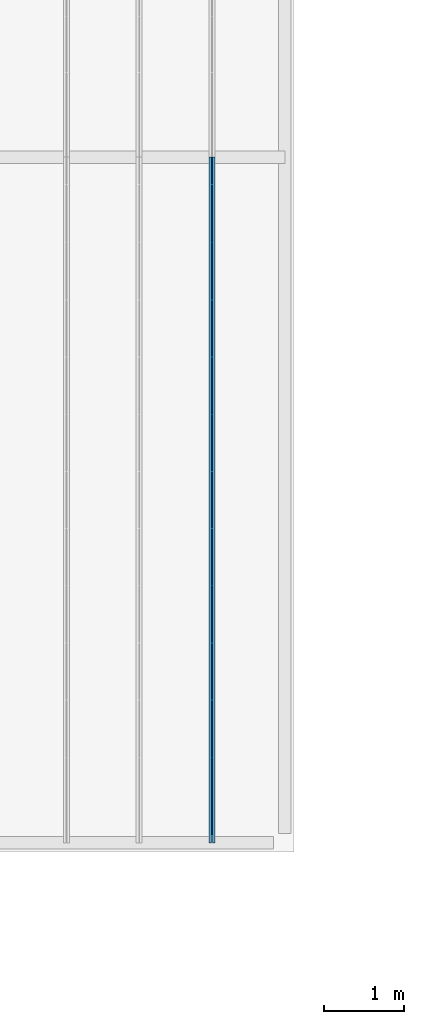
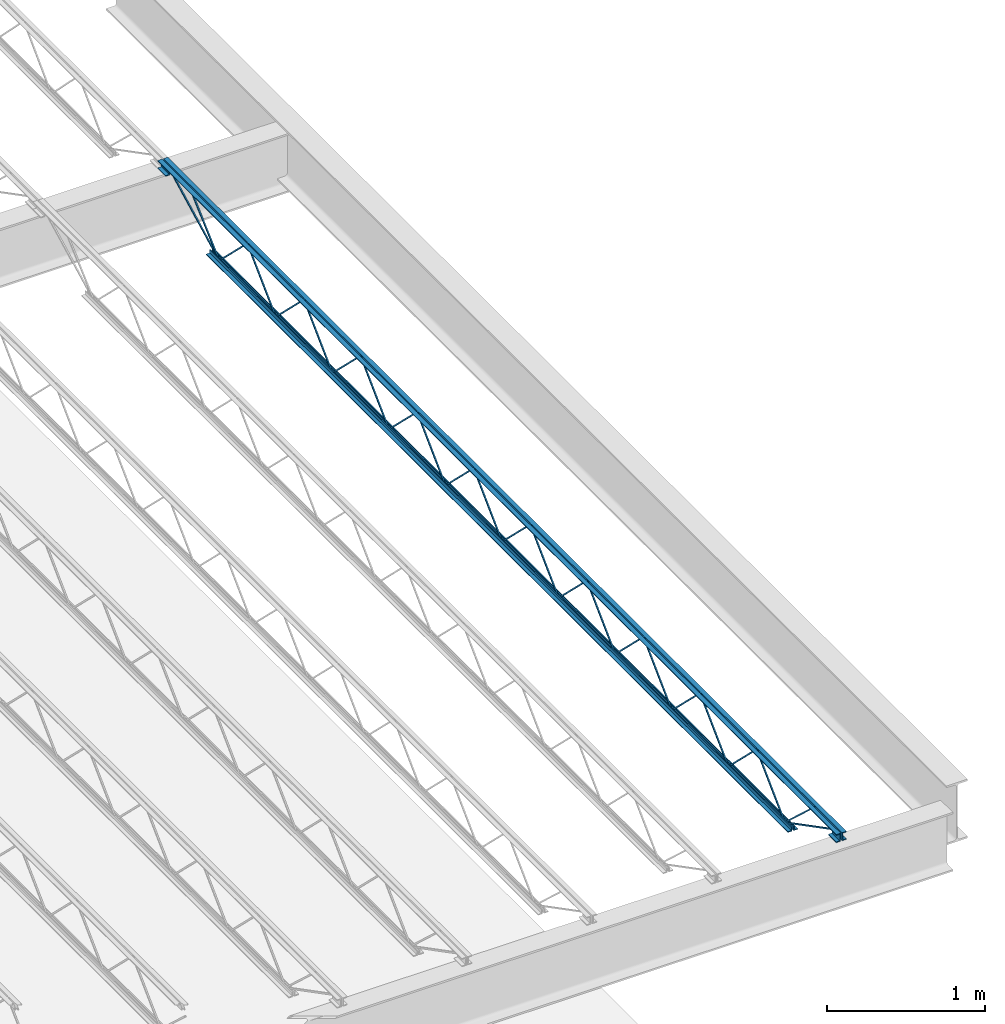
# One storey, part 33 of 75: 1 beam.
"""IFC2X3 building model written with IfcOpenShell, lengths in metres."""

from ifc_helpers import new_model, entity, si_unit, converted_unit, frame, origin, place, context, project, spatial, face_set, surface_model, element, save


model = new_model("IFC2X3")

# Units and contexts
model_context = context("Model", 3, precision=1e-09, world=origin())
plan_context = context("Plan", 3, precision=1e-09, world=origin())
ifc_project = project(units=[si_unit("LENGTHUNIT", "METRE"), si_unit("AREAUNIT", "SQUARE_METRE"), si_unit("VOLUMEUNIT", "CUBIC_METRE"), converted_unit("PLANEANGLEUNIT", "DEGREE", entity("IfcRatioMeasure", 0.01745329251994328), si_unit("PLANEANGLEUNIT", "RADIAN"), dimensions=[0, 0, 0, 0, 0, 0, 0]), si_unit("TIMEUNIT", "SECOND")], contexts=[model_context, plan_context])

# Site, building, storey
site_placement = place(None, origin())
site = spatial("IfcSite", under=ifc_project, at=site_placement, Name="Default", CompositionType="ELEMENT")
building_placement = place(site_placement, origin())
building = spatial("IfcBuilding", under=site, at=building_placement, CompositionType="ELEMENT")
storey_placement = place(building_placement, origin())
storey = spatial("IfcBuildingStorey", under=building, at=storey_placement, Name="First Floor", CompositionType="ELEMENT", Elevation=-3.531500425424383e-13)

# Beam
beam_placement = place(storey_placement, frame((-0.9467500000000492, 10.03999999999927, 4.112000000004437), z_axis=(0.0, 0.0, 1.0), x_axis=(-1.0, 0.0, 0.0)))
element("IfcBeam", 1, at=beam_placement, inside=storey, Name="M_K-Series Bar Joist-Rod Web:14K1:14K1", ObjectType="M_K-Series Bar Joist-Rod Web:14K1", context=model_context, shape_type="SurfaceModel", body=[
    surface_model("IfcFaceBasedSurfaceModel", [(-0.03200000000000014, -2.141200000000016, 0.01110000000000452), (-0.04150000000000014, -2.141200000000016, 0.01110000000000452), (-0.04150000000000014, -2.141200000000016, 0.001600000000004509), (-0.03200000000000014, -2.141200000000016, 0.001600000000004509), (-0.04150000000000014, -2.139961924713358, 0.01110000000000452), (-0.03200000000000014, -2.139961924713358, 0.01110000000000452), (-0.04150000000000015, -2.136088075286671, 0.001600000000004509), (-0.04150000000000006, -1.785138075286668, 0.3449000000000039), (-0.04150000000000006, -1.782661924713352, 0.344900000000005), (-0.0415000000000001, -1.431711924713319, 0.001600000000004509), (-0.04150000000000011, -1.426600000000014, 0.001600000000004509), (-0.04150000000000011, -1.426600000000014, 0.01110000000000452), (-0.04150000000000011, -1.427838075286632, 0.01110000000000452), (-0.0415000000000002, -1.77878807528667, 0.3544000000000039), (-0.04150000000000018, -1.789011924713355, 0.3544000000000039), (-0.03200000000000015, -2.136088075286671, 0.001600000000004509), (-0.03200000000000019, -1.785138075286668, 0.3449000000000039), (-0.0320000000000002, -1.782661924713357, 0.3449000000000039), (-0.03200000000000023, -1.431711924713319, 0.001600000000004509), (-0.03200000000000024, -1.426600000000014, 0.001600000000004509), (-0.03200000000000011, -1.426600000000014, 0.01110000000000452), (-0.03200000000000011, -1.427838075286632, 0.01110000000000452), (-0.03200000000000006, -1.778788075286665, 0.3544000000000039), (-0.03200000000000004, -1.789011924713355, 0.3544000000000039), (-0.03200000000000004, -2.855800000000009, 0.01110000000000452), (-0.04150000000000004, -2.855800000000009, 0.01110000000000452), (-0.04150000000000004, -2.855800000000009, 0.001600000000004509), (-0.03200000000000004, -2.855800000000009, 0.001600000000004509), (-0.04150000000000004, -2.854561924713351, 0.01110000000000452), (-0.03200000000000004, -2.854561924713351, 0.01110000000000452), (-0.04150000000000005, -2.850688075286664, 0.001600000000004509), (-0.04150000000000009, -2.499738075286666, 0.3449000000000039), (-0.04150000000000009, -2.497261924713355, 0.344900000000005), (-0.04150000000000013, -2.146311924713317, 0.001600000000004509), (-0.04150000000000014, -2.141200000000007, 0.001600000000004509), (-0.04150000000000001, -2.141200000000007, 0.01110000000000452), (-0.04150000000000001, -2.14243807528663, 0.01110000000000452), (-0.0415000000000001, -2.493388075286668, 0.3544000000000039), (-0.04150000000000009, -2.503611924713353, 0.3544000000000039), (-0.03200000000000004, -2.850688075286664, 0.001600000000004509), (-0.03200000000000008, -2.499738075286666, 0.3449000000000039), (-0.03200000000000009, -2.497261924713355, 0.3449000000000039), (-0.03200000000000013, -2.146311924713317, 0.001600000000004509), (-0.03200000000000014, -2.141200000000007, 0.001600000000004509), (-0.03200000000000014, -2.141200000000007, 0.01110000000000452), (-0.03200000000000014, -2.14243807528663, 0.01110000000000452), (-0.03200000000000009, -2.493388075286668, 0.3544000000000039), (-0.03200000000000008, -2.503611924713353, 0.3544000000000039), (-0.03200000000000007, -3.570400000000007, 0.01110000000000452), (-0.04150000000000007, -3.570400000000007, 0.01110000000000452), (-0.04150000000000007, -3.570400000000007, 0.001600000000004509), (-0.03200000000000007, -3.570400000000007, 0.001600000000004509), (-0.04150000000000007, -3.569161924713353, 0.01110000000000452), (-0.03200000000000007, -3.569161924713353, 0.01110000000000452), (-0.04150000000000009, -3.565288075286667, 0.001600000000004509), (-0.04150000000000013, -3.214338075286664, 0.3449000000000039), (-0.04150000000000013, -3.211861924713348, 0.344900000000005), (-0.04150000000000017, -2.860911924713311, 0.001600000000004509), (-0.04150000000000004, -2.857038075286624, 0.01110000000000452), (-0.04150000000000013, -3.207988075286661, 0.3544000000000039), (-0.04150000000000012, -3.218211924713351, 0.3544000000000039), (-0.03200000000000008, -3.565288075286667, 0.001600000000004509), (-0.03200000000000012, -3.214338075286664, 0.3449000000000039), (-0.03200000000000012, -3.211861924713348, 0.3449000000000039), (-0.03200000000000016, -2.860911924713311, 0.001600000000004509), (-0.03200000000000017, -2.855800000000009, 0.001600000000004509), (-0.03200000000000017, -2.857038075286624, 0.01110000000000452), (-0.03200000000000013, -3.207988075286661, 0.3544000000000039), (-0.03200000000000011, -3.218211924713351, 0.3544000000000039), (-0.03200000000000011, -4.285000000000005, 0.01110000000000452), (-0.04150000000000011, -4.285000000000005, 0.01110000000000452), (-0.04150000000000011, -4.285000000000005, 0.001600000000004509), (-0.03200000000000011, -4.285000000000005, 0.001600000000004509), (-0.04150000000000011, -4.283761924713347, 0.01110000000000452), (-0.03200000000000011, -4.283761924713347, 0.01110000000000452), (-0.04150000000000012, -4.27988807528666, 0.001600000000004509), (-0.04150000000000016, -3.928938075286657, 0.3449000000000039), (-0.04150000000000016, -3.92646192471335, 0.344900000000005), (-0.04150000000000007, -3.575511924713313, 0.001600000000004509), (-0.04150000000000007, -3.570400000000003, 0.001600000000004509), (-0.04150000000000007, -3.570400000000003, 0.01110000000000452), (-0.04150000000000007, -3.571638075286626, 0.01110000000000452), (-0.04150000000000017, -3.922588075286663, 0.3544000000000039), (-0.04150000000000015, -3.932811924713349, 0.3544000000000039), (-0.03200000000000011, -4.27988807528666, 0.001600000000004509), (-0.03200000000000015, -3.928938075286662, 0.3449000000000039), (-0.03200000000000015, -3.92646192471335, 0.3449000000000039), (-0.0320000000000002, -3.575511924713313, 0.001600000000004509), (-0.0320000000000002, -3.570400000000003, 0.001600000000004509), (-0.03200000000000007, -3.570400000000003, 0.01110000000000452), (-0.03200000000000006, -3.571638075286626, 0.01110000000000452), (-0.03200000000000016, -3.922588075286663, 0.3544000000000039), (-0.03200000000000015, -3.932811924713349, 0.3544000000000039), (-0.03200000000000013, -4.999599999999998, 0.01110000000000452), (-0.04150000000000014, -4.999599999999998, 0.01110000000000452), (-0.04150000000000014, -4.999599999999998, 0.001600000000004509), (-0.03200000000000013, -4.999599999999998, 0.001600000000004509), (-0.04150000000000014, -4.998361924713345, 0.01110000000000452), (-0.03200000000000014, -4.998361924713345, 0.01110000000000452), (-0.04150000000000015, -4.994488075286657, 0.001600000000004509), (-0.04150000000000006, -4.643538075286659, 0.3449000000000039), (-0.04150000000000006, -4.641061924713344, 0.344900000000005), (-0.0415000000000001, -4.290111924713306, 0.001600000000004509), (-0.04150000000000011, -4.285, 0.01110000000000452), (-0.04150000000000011, -4.28623807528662, 0.01110000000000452), (-0.0415000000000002, -4.637188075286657, 0.3544000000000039), (-0.04150000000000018, -4.647411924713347, 0.3544000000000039), (-0.03200000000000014, -4.994488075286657, 0.001600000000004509), (-0.03200000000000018, -4.643538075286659, 0.3449000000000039), (-0.03200000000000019, -4.641061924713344, 0.3449000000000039), (-0.03200000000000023, -4.290111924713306, 0.001600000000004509), (-0.03200000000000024, -4.285, 0.001600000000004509), (-0.0320000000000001, -4.28623807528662, 0.01110000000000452), (-0.03200000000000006, -4.637188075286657, 0.3544000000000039), (-0.03200000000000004, -4.647411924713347, 0.3544000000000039), (-0.03200000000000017, -5.714200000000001, 0.01110000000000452), (-0.04150000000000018, -5.714200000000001, 0.01110000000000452), (-0.04150000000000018, -5.714200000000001, 0.001600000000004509), (-0.03200000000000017, -5.714200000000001, 0.001600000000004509), (-0.04150000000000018, -5.712961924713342, 0.01110000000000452), (-0.03200000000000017, -5.712961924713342, 0.01110000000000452), (-0.04150000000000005, -5.709088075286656, 0.001600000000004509), (-0.04150000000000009, -5.358138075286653, 0.3449000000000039), (-0.04150000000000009, -5.355661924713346, 0.344900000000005), (-0.04150000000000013, -5.004711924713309, 0.001600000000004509), (-0.04150000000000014, -5.000838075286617, 0.01110000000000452), (-0.04150000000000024, -5.351788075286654, 0.3544000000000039), (-0.04150000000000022, -5.36201192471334, 0.3544000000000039), (-0.03200000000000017, -5.709088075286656, 0.001600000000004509), (-0.03200000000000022, -5.358138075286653, 0.3449000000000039), (-0.03200000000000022, -5.355661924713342, 0.3449000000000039), (-0.03200000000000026, -5.004711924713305, 0.001600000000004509), (-0.03200000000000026, -4.999599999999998, 0.001600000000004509), (-0.03200000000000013, -5.000838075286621, 0.01110000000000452), (-0.03200000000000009, -5.351788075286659, 0.3544000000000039), (-0.03200000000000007, -5.36201192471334, 0.3544000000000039), (-0.03200000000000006, -6.428799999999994, 0.01110000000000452), (-0.04150000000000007, -6.428799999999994, 0.01110000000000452), (-0.04150000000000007, -6.428799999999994, 0.001600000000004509), (-0.03200000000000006, -6.428799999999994, 0.001600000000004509), (-0.04150000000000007, -6.42756192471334, 0.01110000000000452), (-0.03200000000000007, -6.42756192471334, 0.01110000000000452), (-0.04150000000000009, -6.423688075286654, 0.001600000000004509), (-0.04150000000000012, -6.072738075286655, 0.3449000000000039), (-0.04150000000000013, -6.070261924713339, 0.344900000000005), (-0.04150000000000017, -5.719311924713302, 0.001600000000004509), (-0.04150000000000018, -5.714199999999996, 0.001600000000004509), (-0.04150000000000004, -5.714199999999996, 0.01110000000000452), (-0.04150000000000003, -5.715438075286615, 0.01110000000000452), (-0.04150000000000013, -6.066388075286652, 0.3544000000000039), (-0.04150000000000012, -6.076611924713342, 0.3544000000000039), (-0.03200000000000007, -6.423688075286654, 0.001600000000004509), (-0.03200000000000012, -6.072738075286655, 0.3449000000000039), (-0.03200000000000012, -6.070261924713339, 0.3449000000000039), (-0.03200000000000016, -5.719311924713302, 0.001600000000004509), (-0.03200000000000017, -5.714199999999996, 0.001600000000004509), (-0.03200000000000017, -5.714199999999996, 0.01110000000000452), (-0.03200000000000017, -5.715438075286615, 0.01110000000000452), (-0.03200000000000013, -6.066388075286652, 0.3544000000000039), (-0.03200000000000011, -6.076611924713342, 0.3544000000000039), (-0.0320000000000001, -7.143399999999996, 0.01110000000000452), (-0.0415000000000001, -7.143399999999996, 0.01110000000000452), (-0.0415000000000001, -7.143399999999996, 0.001600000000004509), (-0.0320000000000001, -7.143399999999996, 0.001600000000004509), (-0.04150000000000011, -7.142161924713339, 0.01110000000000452), (-0.0320000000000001, -7.142161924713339, 0.01110000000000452), (-0.04150000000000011, -7.138288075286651, 0.001600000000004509), (-0.04150000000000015, -6.787338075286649, 0.3449000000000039), (-0.04150000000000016, -6.784861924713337, 0.344900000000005), (-0.04150000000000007, -6.4339119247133, 0.001600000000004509), (-0.04150000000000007, -6.430038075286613, 0.01110000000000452), (-0.04150000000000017, -6.780988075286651, 0.3544000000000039), (-0.04150000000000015, -6.791211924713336, 0.3544000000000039), (-0.03200000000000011, -7.138288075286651, 0.001600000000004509), (-0.03200000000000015, -6.787338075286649, 0.3449000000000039), (-0.03200000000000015, -6.784861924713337, 0.3449000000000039), (-0.0320000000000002, -6.4339119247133, 0.001600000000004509), (-0.0320000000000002, -6.428799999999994, 0.001600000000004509), (-0.03200000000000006, -6.430038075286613, 0.01110000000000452), (-0.03200000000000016, -6.780988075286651, 0.3544000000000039), (-0.03200000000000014, -6.791211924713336, 0.3544000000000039), (-0.03199999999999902, -1.426600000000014, 0.01109999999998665), (-0.04149999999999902, -1.426600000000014, 0.01109999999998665), (-0.04149999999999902, -1.426600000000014, 0.001599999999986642), (-0.03199999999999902, -1.426600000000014, 0.001599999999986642), (-0.04149999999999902, -1.42536192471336, 0.01109999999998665), (-0.03199999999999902, -1.42536192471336, 0.01109999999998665), (-0.04149999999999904, -1.421488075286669, 0.001599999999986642), (-0.04149999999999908, -1.07053807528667, 0.3448999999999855), (-0.04149999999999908, -1.068061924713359, 0.3448999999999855), (-0.04149999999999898, -0.7171119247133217, 0.001599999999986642), (-0.04149999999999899, -0.7120000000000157, 0.001599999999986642), (-0.04149999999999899, -0.7120000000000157, 0.01109999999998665), (-0.04149999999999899, -0.7132380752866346, 0.01109999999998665), (-0.04149999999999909, -1.064188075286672, 0.3543999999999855), (-0.04149999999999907, -1.074411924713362, 0.3543999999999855), (-0.03199999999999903, -1.421488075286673, 0.001599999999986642), (-0.03199999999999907, -1.070538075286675, 0.3448999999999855), (-0.03199999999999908, -1.068061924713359, 0.3448999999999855), (-0.03199999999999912, -0.7171119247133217, 0.001599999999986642), (-0.03199999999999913, -0.7120000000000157, 0.001599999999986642), (-0.03199999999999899, -0.7120000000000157, 0.01109999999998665), (-0.03199999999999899, -0.7132380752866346, 0.01109999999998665), (-0.03199999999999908, -1.064188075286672, 0.3543999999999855), (-0.03199999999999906, -1.074411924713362, 0.3543999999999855), (-0.03200000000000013, -7.85799999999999, 0.0111000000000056), (-0.04150000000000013, -7.85799999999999, 0.0111000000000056), (-0.04150000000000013, -7.85799999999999, 0.001600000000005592), (-0.03200000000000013, -7.85799999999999, 0.001600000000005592), (-0.04150000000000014, -7.856761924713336, 0.01110000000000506), (-0.03200000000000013, -7.856761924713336, 0.01110000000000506), (-0.04150000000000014, -7.852888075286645, 0.001600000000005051), (-0.04150000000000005, -7.501938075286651, 0.344900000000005), (-0.04150000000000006, -7.499461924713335, 0.344900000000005), (-0.04150000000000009, -7.148511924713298, 0.001600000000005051), (-0.0415000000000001, -7.143399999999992, 0.001600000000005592), (-0.0415000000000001, -7.143399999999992, 0.01110000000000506), (-0.0415000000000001, -7.14463807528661, 0.01110000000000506), (-0.0415000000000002, -7.495588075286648, 0.354400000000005), (-0.04150000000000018, -7.505811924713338, 0.354400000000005), (-0.03200000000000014, -7.852888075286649, 0.001600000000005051), (-0.03200000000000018, -7.501938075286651, 0.344900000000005), (-0.03200000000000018, -7.499461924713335, 0.344900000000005), (-0.03200000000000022, -7.148511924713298, 0.001600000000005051), (-0.03200000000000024, -7.143399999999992, 0.001600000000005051), (-0.0320000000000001, -7.143399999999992, 0.0111000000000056), (-0.03200000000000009, -7.14463807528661, 0.01110000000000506), (-0.03200000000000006, -7.495588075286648, 0.354400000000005), (-0.03200000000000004, -7.505811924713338, 0.354400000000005), (-0.04150000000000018, 0.0, 0.3560000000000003), (-0.07350000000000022, 0.0, 0.3560000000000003), (-0.07350000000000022, 0.0, 0.3494999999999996), (-0.04800000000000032, 0.0, 0.3494999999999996), (-0.04800000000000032, 0.0, 0.3239999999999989), (-0.04150000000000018, 0.0, 0.3239999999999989), (-0.03200000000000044, 0.0, 0.3560000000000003), (-0.03200000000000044, 0.0, 0.3239999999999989), (-0.02550000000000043, 0.0, 0.3239999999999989), (-0.02550000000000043, 0.0, 0.3494999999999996), (0.0, 0.0, 0.3494999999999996), (0.0, 0.0, 0.3560000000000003), (-0.04150000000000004, -8.569999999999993, 0.3560000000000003), (-0.07350000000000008, -8.569999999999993, 0.3560000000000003), (-0.07350000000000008, -8.569999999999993, 0.3494999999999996), (-0.04800000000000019, -8.569999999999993, 0.3494999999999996), (-0.04800000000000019, -8.569999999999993, 0.3239999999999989), (-0.04150000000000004, -8.569999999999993, 0.3239999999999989), (-0.03200000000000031, -8.569999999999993, 0.3560000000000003), (-0.03200000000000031, -8.569999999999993, 0.3239999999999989), (-0.02550000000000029, -8.569999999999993, 0.3239999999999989), (-0.02550000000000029, -8.569999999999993, 0.3494999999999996), (0.0, -8.569999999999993, 0.3494999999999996), (0.0, -8.569999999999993, 0.3560000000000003), (-0.03200000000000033, -8.470000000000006, 0.2924999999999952), (0.0, -8.470000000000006, 0.2924999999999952), (0.0, -8.470000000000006, 0.2989999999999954), (-0.02550000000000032, -8.470000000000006, 0.2989999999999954), (-0.02550000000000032, -8.470000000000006, 0.3239999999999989), (-0.03200000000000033, -8.470000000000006, 0.3239999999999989), (-0.0735000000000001, -8.470000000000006, 0.2924999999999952), (-0.04150000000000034, -8.470000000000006, 0.2924999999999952), (-0.04150000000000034, -8.470000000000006, 0.3239999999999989), (-0.04800000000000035, -8.470000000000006, 0.3239999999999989), (-0.04800000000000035, -8.470000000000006, 0.2989999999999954), (-0.0735000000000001, -8.470000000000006, 0.2989999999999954), (-0.03200000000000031, -8.569999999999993, 0.2924999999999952), (0.0, -8.569999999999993, 0.2924999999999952), (0.0, -8.569999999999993, 0.2989999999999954), (-0.02550000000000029, -8.569999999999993, 0.2989999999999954), (-0.07350000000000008, -8.569999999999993, 0.2924999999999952), (-0.04150000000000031, -8.569999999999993, 0.2924999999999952), (-0.04150000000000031, -8.569999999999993, 0.3239999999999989), (-0.04800000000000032, -8.569999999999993, 0.3239999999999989), (-0.04800000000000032, -8.569999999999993, 0.2989999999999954), (-0.07350000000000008, -8.569999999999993, 0.2989999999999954), (-0.04150000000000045, 0.0, 0.2924999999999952), (-0.04150000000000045, 0.0, 0.3239999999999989), (-0.04800000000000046, 0.0, 0.3239999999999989), (-0.04800000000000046, 0.0, 0.2989999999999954), (-0.07350000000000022, 0.0, 0.2989999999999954), (-0.07350000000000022, 0.0, 0.2924999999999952), (-0.03200000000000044, 0.0, 0.2924999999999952), (0.0, 0.0, 0.2924999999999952), (0.0, 0.0, 0.2989999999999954), (-0.02550000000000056, 0.0, 0.2989999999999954), (-0.02550000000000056, 0.0, 0.3239999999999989), (-0.04150000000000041, -0.09999999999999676, 0.2924999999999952), (-0.04150000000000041, -0.09999999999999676, 0.3239999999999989), (-0.04800000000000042, -0.09999999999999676, 0.3239999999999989), (-0.04800000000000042, -0.09999999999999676, 0.2989999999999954), (-0.07350000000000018, -0.09999999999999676, 0.2989999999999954), (-0.07350000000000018, -0.09999999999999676, 0.2924999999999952), (-0.03200000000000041, -0.09999999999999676, 0.2924999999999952), (0.0, -0.09999999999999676, 0.2924999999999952), (0.0, -0.09999999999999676, 0.2989999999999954), (-0.0255000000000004, -0.09999999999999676, 0.2989999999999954), (-0.0255000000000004, -0.09999999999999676, 0.3239999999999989), (-0.03200000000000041, -0.09999999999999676, 0.3239999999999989), (-0.04150000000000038, -0.6119999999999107, 0.0), (-0.04150000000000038, -0.6119999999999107, 0.03199999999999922), (-0.04800000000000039, -0.6119999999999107, 0.03199999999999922), (-0.04800000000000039, -0.6119999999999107, 0.006500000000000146), (-0.07350000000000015, -0.6119999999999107, 0.006500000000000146), (-0.07350000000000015, -0.6119999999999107, 0.0), (-0.03200000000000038, -0.6119999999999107, 0.0), (0.0, -0.6119999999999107, 0.0), (0.0, -0.6119999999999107, 0.006500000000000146), (-0.02550000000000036, -0.6119999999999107, 0.006500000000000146), (-0.02550000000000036, -0.6119999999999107, 0.03199999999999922), (-0.03200000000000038, -0.6119999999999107, 0.03199999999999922), (-0.04150000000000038, -7.957999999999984, 0.0), (-0.04150000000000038, -7.957999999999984, 0.03199999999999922), (-0.04800000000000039, -7.957999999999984, 0.03199999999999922), (-0.04800000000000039, -7.957999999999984, 0.006500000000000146), (-0.07350000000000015, -7.957999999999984, 0.006500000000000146), (-0.07350000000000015, -7.957999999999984, 0.0), (-0.03200000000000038, -7.957999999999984, 0.0), (0.0, -7.957999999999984, 0.0), (0.0, -7.957999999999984, 0.006500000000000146), (-0.02550000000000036, -7.957999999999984, 0.006500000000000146), (-0.02550000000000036, -7.957999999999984, 0.03199999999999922), (-0.03200000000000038, -7.957999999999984, 0.03199999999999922), (-0.03200000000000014, -7.855811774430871, 0.01056594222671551), (-0.04150000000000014, -7.855811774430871, 0.01056594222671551), (-0.04150000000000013, -7.860188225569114, 0.002134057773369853), (-0.03200000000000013, -7.860188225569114, 0.002134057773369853), (-0.0320000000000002, -8.468840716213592, 0.32875), (-0.03200000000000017, -8.569999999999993, 0.32875), (-0.03200000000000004, -8.569999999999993, 0.31925), (-0.03200000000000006, -8.471159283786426, 0.31925), (-0.04150000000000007, -8.471159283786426, 0.31925), (-0.04150000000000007, -8.468840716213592, 0.32875), (-0.04150000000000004, -8.569999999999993, 0.32875), (-0.04150000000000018, -8.569999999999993, 0.31925), (-0.03200000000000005, -8.235257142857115, 0.3417000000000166), (-0.04150000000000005, -8.235257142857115, 0.3417000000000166), (-0.04150000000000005, -8.235257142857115, 0.3322000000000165), (-0.03200000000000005, -8.235257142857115, 0.3322000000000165), (-0.04150000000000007, -8.22072410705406, 0.3417000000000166), (-0.03200000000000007, -8.220724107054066, 0.3417000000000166), (-0.04150000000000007, -8.224390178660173, 0.3322000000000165), (-0.04150000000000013, -7.861190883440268, 0.002831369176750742), (-0.04150000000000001, -7.854809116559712, 0.009868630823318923), (-0.03200000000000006, -8.224390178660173, 0.3322000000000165), (-0.03199999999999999, -7.861190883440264, 0.002831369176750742), (-0.03200000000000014, -7.854809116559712, 0.009868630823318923), (-0.03200000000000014, -0.0978117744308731, 0.3197840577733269), (-0.03200000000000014, -0.1021882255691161, 0.3282159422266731), (-0.04150000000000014, -0.1021882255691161, 0.328215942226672), (-0.04150000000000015, -0.0978117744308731, 0.3197840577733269), (-0.03200000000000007, -0.7098117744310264, 0.002134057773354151), (-0.03200000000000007, -0.7141882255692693, 0.01056594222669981), (-0.04150000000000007, -0.7141882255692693, 0.01056594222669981), (-0.04150000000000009, -0.7098117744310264, 0.002134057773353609), (-0.03200000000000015, -0.3369634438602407, 0.3461600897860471), (-0.03200000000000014, -0.3434079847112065, 0.3531399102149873), (-0.04150000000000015, -0.3434079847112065, 0.3531399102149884), (-0.04150000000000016, -0.3369634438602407, 0.3461600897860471), (-0.03200000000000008, -0.7087777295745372, 0.002860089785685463), (-0.03200000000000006, -0.7152222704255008, 0.009839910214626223), (-0.04150000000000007, -0.7152222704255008, 0.009839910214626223), (-0.04150000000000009, -0.7087777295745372, 0.002860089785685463)], [face_set([[[0, 1, 2, 3]], [[1, 4, 5, 0]], [[2, 6, 7, 8, 9, 10, 11, 12, 13, 14, 4, 1]], [[3, 2, 6, 15]], [[0, 3, 15, 16, 17, 18, 19, 20, 21, 22, 23, 5]], [[4, 5, 23, 14]], [[15, 16, 7, 6]], [[14, 13, 22, 23]], [[16, 7, 8, 17]], [[13, 12, 21, 22]], [[17, 8, 9, 18]], [[20, 11, 10, 19]], [[12, 11, 20, 21]], [[18, 9, 10, 19]]]), face_set([[[24, 25, 26, 27]], [[25, 28, 29, 24]], [[26, 30, 31, 32, 33, 34, 35, 36, 37, 38, 28, 25]], [[27, 26, 30, 39]], [[24, 27, 39, 40, 41, 42, 43, 44, 45, 46, 47, 29]], [[28, 29, 47, 38]], [[39, 40, 31, 30]], [[38, 37, 46, 47]], [[40, 31, 32, 41]], [[37, 36, 45, 46]], [[41, 32, 33, 42]], [[44, 35, 34, 43]], [[36, 35, 44, 45]], [[42, 33, 34, 43]]]), face_set([[[48, 49, 50, 51]], [[49, 52, 53, 48]], [[50, 54, 55, 56, 57, 26, 25, 58, 59, 60, 52, 49]], [[51, 50, 54, 61]], [[48, 51, 61, 62, 63, 64, 65, 24, 66, 67, 68, 53]], [[52, 53, 68, 60]], [[61, 62, 55, 54]], [[60, 59, 67, 68]], [[62, 55, 56, 63]], [[59, 58, 66, 67]], [[63, 56, 57, 64]], [[24, 25, 26, 65]], [[58, 25, 24, 66]], [[64, 57, 26, 65]]]), face_set([[[69, 70, 71, 72]], [[70, 73, 74, 69]], [[71, 75, 76, 77, 78, 79, 80, 81, 82, 83, 73, 70]], [[72, 71, 75, 84]], [[69, 72, 84, 85, 86, 87, 88, 89, 90, 91, 92, 74]], [[73, 74, 92, 83]], [[84, 85, 76, 75]], [[83, 82, 91, 92]], [[85, 76, 77, 86]], [[82, 81, 90, 91]], [[86, 77, 78, 87]], [[89, 80, 79, 88]], [[81, 80, 89, 90]], [[87, 78, 79, 88]]]), face_set([[[93, 94, 95, 96]], [[94, 97, 98, 93]], [[95, 99, 100, 101, 102, 71, 103, 104, 105, 106, 97, 94]], [[96, 95, 99, 107]], [[93, 96, 107, 108, 109, 110, 111, 69, 112, 113, 114, 98]], [[97, 98, 114, 106]], [[107, 108, 100, 99]], [[106, 105, 113, 114]], [[108, 100, 101, 109]], [[105, 104, 112, 113]], [[109, 101, 102, 110]], [[69, 103, 71, 111]], [[104, 103, 69, 112]], [[110, 102, 71, 111]]]), face_set([[[115, 116, 117, 118]], [[116, 119, 120, 115]], [[117, 121, 122, 123, 124, 95, 94, 125, 126, 127, 119, 116]], [[118, 117, 121, 128]], [[115, 118, 128, 129, 130, 131, 132, 93, 133, 134, 135, 120]], [[119, 120, 135, 127]], [[128, 129, 122, 121]], [[127, 126, 134, 135]], [[129, 122, 123, 130]], [[126, 125, 133, 134]], [[130, 123, 124, 131]], [[93, 94, 95, 132]], [[125, 94, 93, 133]], [[131, 124, 95, 132]]]), face_set([[[136, 137, 138, 139]], [[137, 140, 141, 136]], [[138, 142, 143, 144, 145, 146, 147, 148, 149, 150, 140, 137]], [[139, 138, 142, 151]], [[136, 139, 151, 152, 153, 154, 155, 156, 157, 158, 159, 141]], [[140, 141, 159, 150]], [[151, 152, 143, 142]], [[150, 149, 158, 159]], [[152, 143, 144, 153]], [[149, 148, 157, 158]], [[153, 144, 145, 154]], [[156, 147, 146, 155]], [[148, 147, 156, 157]], [[154, 145, 146, 155]]]), face_set([[[160, 161, 162, 163]], [[161, 164, 165, 160]], [[162, 166, 167, 168, 169, 138, 137, 170, 171, 172, 164, 161]], [[163, 162, 166, 173]], [[160, 163, 173, 174, 175, 176, 177, 136, 178, 179, 180, 165]], [[164, 165, 180, 172]], [[173, 174, 167, 166]], [[172, 171, 179, 180]], [[174, 167, 168, 175]], [[171, 170, 178, 179]], [[175, 168, 169, 176]], [[136, 137, 138, 177]], [[170, 137, 136, 178]], [[176, 169, 138, 177]]]), face_set([[[181, 182, 183, 184]], [[182, 185, 186, 181]], [[183, 187, 188, 189, 190, 191, 192, 193, 194, 195, 185, 182]], [[184, 183, 187, 196]], [[181, 184, 196, 197, 198, 199, 200, 201, 202, 203, 204, 186]], [[185, 186, 204, 195]], [[196, 197, 188, 187]], [[195, 194, 203, 204]], [[197, 188, 189, 198]], [[194, 193, 202, 203]], [[198, 189, 190, 199]], [[201, 192, 191, 200]], [[193, 192, 201, 202]], [[199, 190, 191, 200]]]), face_set([[[205, 206, 207, 208]], [[206, 209, 210, 205]], [[207, 211, 212, 213, 214, 215, 216, 217, 218, 219, 209, 206]], [[208, 207, 211, 220]], [[205, 208, 220, 221, 222, 223, 224, 225, 226, 227, 228, 210]], [[209, 210, 228, 219]], [[220, 221, 212, 211]], [[219, 218, 227, 228]], [[221, 212, 213, 222]], [[218, 217, 226, 227]], [[222, 213, 214, 223]], [[225, 216, 215, 224]], [[217, 216, 225, 226]], [[223, 214, 215, 224]]]), face_set([[[229, 230, 231, 232, 233, 234]], [[235, 236, 237, 238, 239, 240]], [[241, 242, 243, 244, 245, 246]], [[247, 248, 249, 250, 251, 252]], [[234, 229, 241, 246]], [[233, 234, 246, 245]], [[232, 244, 245, 233]], [[231, 232, 244, 243]], [[230, 242, 243, 231]], [[229, 241, 242, 230]], [[240, 252, 247, 235]], [[239, 240, 252, 251]], [[238, 239, 251, 250]], [[237, 238, 250, 249]], [[236, 237, 249, 248]], [[235, 247, 248, 236]]]), face_set([[[253, 254, 255, 256, 257, 258]], [[259, 260, 261, 262, 263, 264]], [[265, 266, 267, 268, 249, 248]], [[269, 270, 271, 272, 273, 274]], [[258, 248, 265, 253]], [[257, 249, 248, 258]], [[256, 257, 249, 268]], [[255, 267, 268, 256]], [[254, 255, 267, 266]], [[253, 254, 266, 265]], [[264, 274, 269, 259]], [[263, 273, 274, 264]], [[262, 272, 273, 263]], [[261, 271, 272, 262]], [[260, 261, 271, 270]], [[259, 260, 270, 269]]]), face_set([[[275, 276, 277, 278, 279, 280]], [[281, 282, 283, 284, 285, 236]], [[286, 287, 288, 289, 290, 291]], [[292, 293, 294, 295, 296, 297]], [[280, 275, 286, 291]], [[279, 290, 291, 280]], [[278, 289, 290, 279]], [[277, 288, 289, 278]], [[276, 287, 288, 277]], [[275, 276, 287, 286]], [[236, 297, 292, 281]], [[285, 296, 297, 236]], [[284, 285, 296, 295]], [[283, 294, 295, 284]], [[282, 283, 294, 293]], [[281, 282, 293, 292]]]), face_set([[[298, 299, 300, 301, 302, 303]], [[304, 305, 306, 307, 308, 309]], [[310, 311, 312, 313, 314, 315]], [[316, 317, 318, 319, 320, 321]], [[303, 298, 310, 315]], [[302, 314, 315, 303]], [[301, 313, 314, 302]], [[300, 312, 313, 301]], [[299, 311, 312, 300]], [[298, 299, 311, 310]], [[309, 321, 316, 304]], [[308, 320, 321, 309]], [[307, 308, 320, 319]], [[306, 318, 319, 307]], [[305, 306, 318, 317]], [[304, 305, 317, 316]]]), face_set([[[322, 323, 324, 325]], [[325, 322, 326, 327, 328, 329]], [[324, 325, 329, 330]], [[323, 331, 332, 333, 330, 324]], [[322, 326, 331, 323]], [[327, 332, 333, 328]], [[330, 329, 328, 333]], [[326, 327, 332, 331]]]), face_set([[[334, 335, 336, 337]], [[335, 338, 339, 334]], [[336, 340, 341, 342, 338, 335]], [[337, 336, 340, 343]], [[334, 337, 343, 344, 345, 339]], [[345, 342, 341, 344]], [[338, 342, 345, 339]], [[343, 340, 341, 344]]]), face_set([[[346, 347, 348, 349]], [[350, 351, 352, 353]], [[349, 353, 350, 346]], [[348, 352, 353, 349]], [[347, 348, 352, 351]], [[346, 347, 351, 350]]]), face_set([[[354, 355, 356, 357]], [[358, 359, 360, 361]], [[357, 361, 358, 354]], [[356, 360, 361, 357]], [[355, 356, 360, 359]], [[354, 355, 359, 358]]])]),
])

save(model, "model.ifc")
